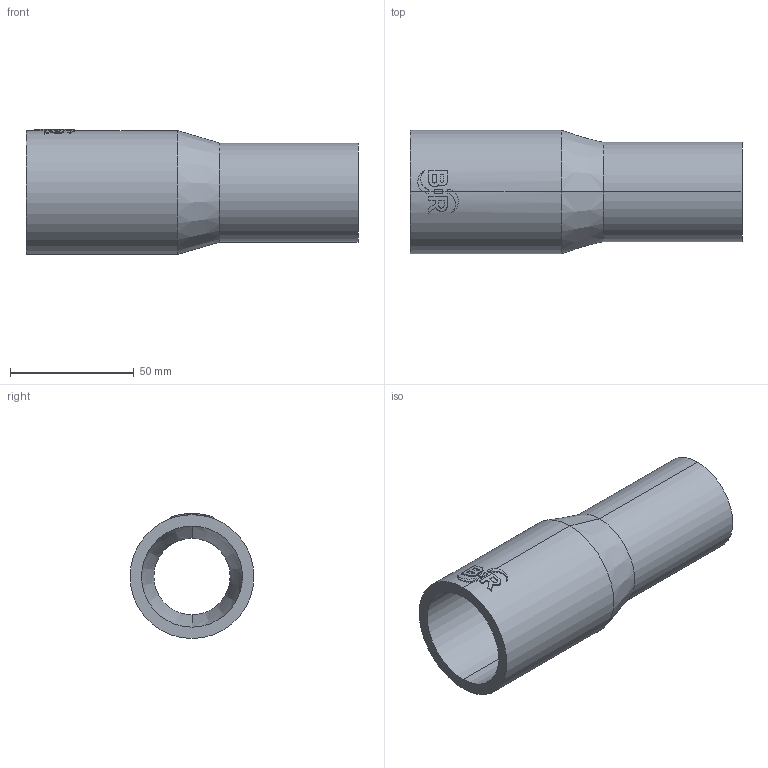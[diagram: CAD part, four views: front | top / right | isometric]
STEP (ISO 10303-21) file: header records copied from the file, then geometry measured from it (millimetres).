
FILE_DESCRIPTION (( 'STEP AP214' ), '1' );
FILE_NAME ('2323100915.STEP', '2018-07-20T09:18:47', ( '' ), ( '' ), 'SwSTEP 2.0', 'SolidWorks 2017', '' );
FILE_SCHEMA (( 'AUTOMOTIVE_DESIGN' ));
Length unit declared in the file: millimetre
Products named in the file (1): 2323100915
Bounding box: 134 x 50 x 50.46 mm (x, y, z)
Volume: 79013.4 mm3; surface area: 35569.4 mm2
Topology: 1 solids, 1 shells, 63 faces, 160 edges, 104 vertices
Faces by surface type: cylinder 31, plane 28, cone 4
Entity records: 3007 total; most frequent: CARTESIAN_POINT 798, ORIENTED_EDGE 320, DIRECTION 296, EDGE_CURVE 160, AXIS2_PLACEMENT_3D 112, VERTEX_POINT 104, LINE 72, VECTOR 72
